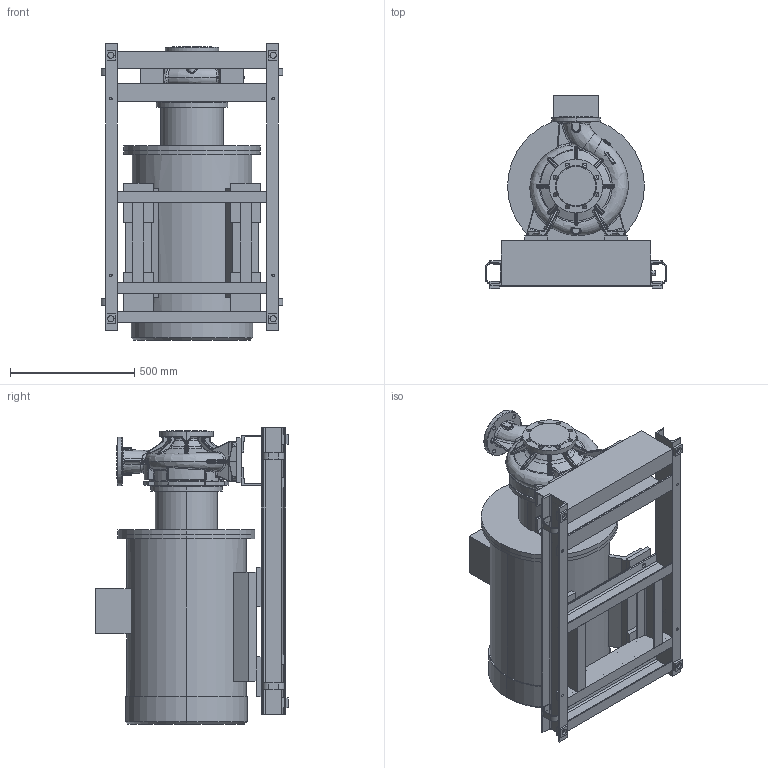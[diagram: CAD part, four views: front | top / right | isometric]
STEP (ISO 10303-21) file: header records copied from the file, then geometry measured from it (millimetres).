
FILE_DESCRIPTION (( 'STEP AP203' ), '1' );
FILE_NAME ('KRM 100-80-250-2-75.STEP', '2026-05-18T09:50:59', ( '' ), ( '' ), 'SwSTEP 2.0', 'SolidWorks 2016', '' );
FILE_SCHEMA (( 'CONFIG_CONTROL_DESIGN' ));
Length unit declared in the file: millimetre
Products named in the file (1): KRM 100-80-250-2-75
Bounding box: 730 x 775 x 1189.99 mm (x, y, z)
Volume: 190400489.5 mm3; surface area: 6548862.6 mm2
Topology: 40 solids, 40 shells, 1584 faces, 3857 edges, 2325 vertices
Faces by surface type: bspline 481, plane 440, cylinder 429, torus 112, cone 83, sphere 39
Entity records: 84785 total; most frequent: CARTESIAN_POINT 51184, ORIENTED_EDGE 7634, DIRECTION 6198, EDGE_CURVE 3817, AXIS2_PLACEMENT_3D 2445, VERTEX_POINT 2325, EDGE_LOOP 1702, ADVANCED_FACE 1584
